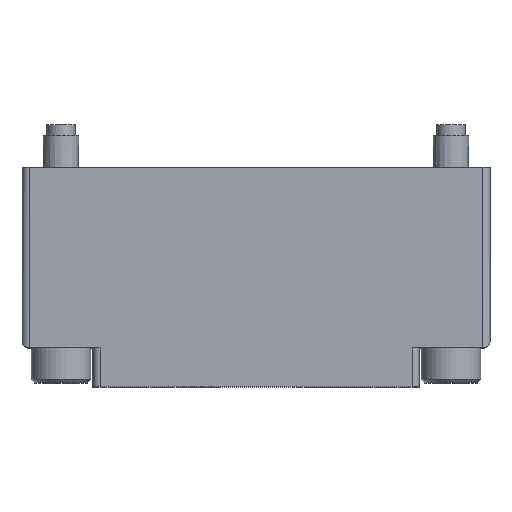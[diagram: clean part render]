
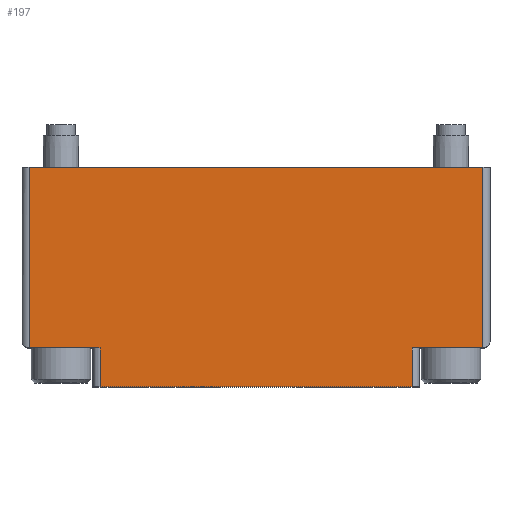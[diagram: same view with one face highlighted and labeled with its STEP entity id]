
A CAD part, top view. The second image highlights one B-rep face of the part: STEP entity #197.
In plain terms, the highlighted planar face has unit normal (0, 0, 1).
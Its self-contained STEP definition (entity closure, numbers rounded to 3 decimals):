
#197=ADVANCED_FACE('',(#462),#463,.F.);
#462=FACE_OUTER_BOUND('',#839,.T.);
#463=PLANE('',#840);
#839=EDGE_LOOP('',(#1246,#1247,#1248,#1249,#1250,#1251,#1252,#1253));
#840=AXIS2_PLACEMENT_3D('',#1254,#1255,#1256);
#1246=ORIENTED_EDGE('',*,*,#2007,.F.);
#1247=ORIENTED_EDGE('',*,*,#2008,.T.);
#1248=ORIENTED_EDGE('',*,*,#2009,.T.);
#1249=ORIENTED_EDGE('',*,*,#2010,.T.);
#1250=ORIENTED_EDGE('',*,*,#1987,.F.);
#1251=ORIENTED_EDGE('',*,*,#2011,.T.);
#1252=ORIENTED_EDGE('',*,*,#2012,.T.);
#1253=ORIENTED_EDGE('',*,*,#2013,.T.);
#1254=CARTESIAN_POINT('',(33.0,-31.0,19.5));
#1255=DIRECTION('',(0.0,0.0,-1.0));
#1256=DIRECTION('',(0.0,-1.0,0.0));
#1987=EDGE_CURVE('',#2304,#2306,#2307,.T.);
#2007=EDGE_CURVE('',#2339,#2340,#2341,.T.);
#2008=EDGE_CURVE('',#2339,#2342,#2343,.T.);
#2009=EDGE_CURVE('',#2342,#2344,#2345,.T.);
#2010=EDGE_CURVE('',#2344,#2306,#2346,.T.);
#2011=EDGE_CURVE('',#2304,#2347,#2348,.T.);
#2012=EDGE_CURVE('',#2347,#2349,#2350,.T.);
#2013=EDGE_CURVE('',#2349,#2340,#2351,.T.);
#2304=VERTEX_POINT('',#2807);
#2306=VERTEX_POINT('',#2809);
#2307=LINE('',#2810,#2811);
#2339=VERTEX_POINT('',#2852);
#2340=VERTEX_POINT('',#2853);
#2341=LINE('',#2854,#2855);
#2342=VERTEX_POINT('',#2856);
#2343=LINE('',#2857,#2858);
#2344=VERTEX_POINT('',#2859);
#2345=LINE('',#2860,#2861);
#2346=LINE('',#2862,#2863);
#2347=VERTEX_POINT('',#2864);
#2348=LINE('',#2865,#2866);
#2349=VERTEX_POINT('',#2867);
#2350=LINE('',#2868,#2869);
#2351=LINE('',#2870,#2871);
#2807=CARTESIAN_POINT('',(-32.0,0.,19.5));
#2809=CARTESIAN_POINT('',(32.0,0.,19.5));
#2810=CARTESIAN_POINT('',(-33.0,0.,19.5));
#2811=VECTOR('',#3414,1.0);
#2852=CARTESIAN_POINT('',(22.0,-31.0,19.5));
#2853=CARTESIAN_POINT('',(-22.0,-31.0,19.5));
#2854=CARTESIAN_POINT('',(33.0,-31.0,19.5));
#2855=VECTOR('',#3439,1.0);
#2856=CARTESIAN_POINT('',(22.0,-25.5,19.5));
#2857=CARTESIAN_POINT('',(22.0,-25.5,19.5));
#2858=VECTOR('',#3440,1.0);
#2859=CARTESIAN_POINT('',(32.0,-25.5,19.5));
#2860=CARTESIAN_POINT('',(23.0,-25.5,19.5));
#2861=VECTOR('',#3441,1.0);
#2862=CARTESIAN_POINT('',(32.0,-31.0,19.5));
#2863=VECTOR('',#3442,1.0);
#2864=CARTESIAN_POINT('',(-32.0,-25.5,19.5));
#2865=CARTESIAN_POINT('',(-32.0,-31.0,19.5));
#2866=VECTOR('',#3443,1.0);
#2867=CARTESIAN_POINT('',(-22.0,-25.5,19.5));
#2868=CARTESIAN_POINT('',(-33.0,-25.5,19.5));
#2869=VECTOR('',#3444,1.0);
#2870=CARTESIAN_POINT('',(-22.0,-31.0,19.5));
#2871=VECTOR('',#3445,1.0);
#3414=DIRECTION('',(1.0,0.0,0.0));
#3439=DIRECTION('',(-1.0,0.0,0.0));
#3440=DIRECTION('',(0.0,1.0,0.0));
#3441=DIRECTION('',(1.0,0.0,0.0));
#3442=DIRECTION('',(0.0,1.0,0.0));
#3443=DIRECTION('',(0.0,-1.0,0.0));
#3444=DIRECTION('',(1.0,0.0,0.0));
#3445=DIRECTION('',(0.0,-1.0,0.0));
